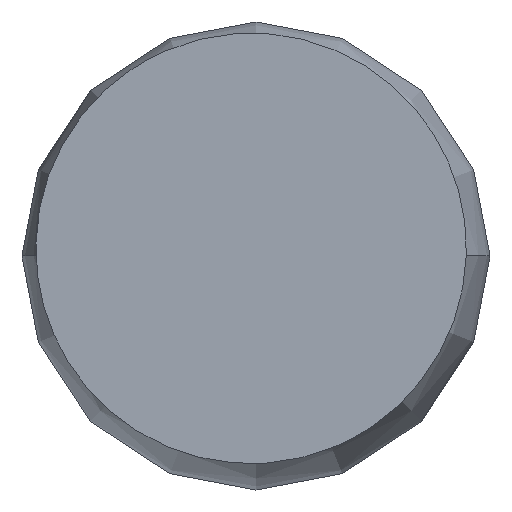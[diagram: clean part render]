
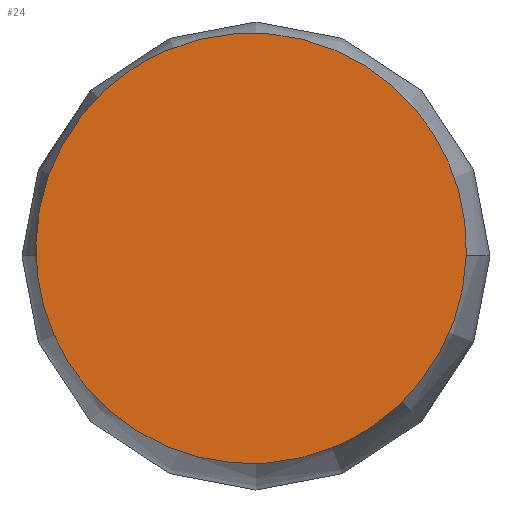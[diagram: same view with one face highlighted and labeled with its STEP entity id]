
A CAD part, top view. The second image highlights one B-rep face of the part: STEP entity #24.
In plain terms, the highlighted planar face has unit normal (0, 0, -1).
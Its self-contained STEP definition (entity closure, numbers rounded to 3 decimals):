
#24=ADVANCED_FACE('',(#40),#251,.T.);
#40=FACE_OUTER_BOUND('',#56,.T.);
#56=EDGE_LOOP('',(#74,#75));
#74=ORIENTED_EDGE('',*,*,#143,.T.);
#75=ORIENTED_EDGE('',*,*,#145,.T.);
#143=EDGE_CURVE('',#214,#220,#176,.T.);
#145=EDGE_CURVE('',#220,#214,#178,.T.);
#176=(
BOUNDED_CURVE()
B_SPLINE_CURVE(2,(#506,#507,#508,#509,#510),.UNSPECIFIED.,.F.,.F.)
B_SPLINE_CURVE_WITH_KNOTS((3,2,3),(-180.643,-90.321,
0.),.UNSPECIFIED.)
CURVE()
GEOMETRIC_REPRESENTATION_ITEM()
RATIONAL_B_SPLINE_CURVE((1.,0.707,1.,0.707,1.))
REPRESENTATION_ITEM('')
);
#178=(
BOUNDED_CURVE()
B_SPLINE_CURVE(2,(#514,#515,#516,#517,#518),.UNSPECIFIED.,.F.,.F.)
B_SPLINE_CURVE_WITH_KNOTS((3,2,3),(-180.643,-90.321,
0.),.UNSPECIFIED.)
CURVE()
GEOMETRIC_REPRESENTATION_ITEM()
RATIONAL_B_SPLINE_CURVE((1.,0.707,1.,0.707,1.))
REPRESENTATION_ITEM('')
);
#214=VERTEX_POINT('',#485);
#220=VERTEX_POINT('',#491);
#251=PLANE('',#274);
#274=AXIS2_PLACEMENT_3D('',#289,#281,$);
#281=DIRECTION('',(0.,0.,-1.));
#289=CARTESIAN_POINT('',(-71.39,107.864,1289.602));
#485=CARTESIAN_POINT('',(-17.203,83.285,1289.602));
#491=CARTESIAN_POINT('',(28.925,-22.059,1289.602));
#506=CARTESIAN_POINT('',(-17.203,83.285,1289.602));
#507=CARTESIAN_POINT('',(35.469,106.349,1289.602));
#508=CARTESIAN_POINT('',(58.533,53.677,1289.602));
#509=CARTESIAN_POINT('',(81.597,1.005,1289.602));
#510=CARTESIAN_POINT('',(28.925,-22.059,1289.602));
#514=CARTESIAN_POINT('',(28.925,-22.059,1289.602));
#515=CARTESIAN_POINT('',(-23.747,-45.123,1289.602));
#516=CARTESIAN_POINT('',(-46.811,7.549,1289.602));
#517=CARTESIAN_POINT('',(-69.875,60.221,1289.602));
#518=CARTESIAN_POINT('',(-17.203,83.285,1289.602));
